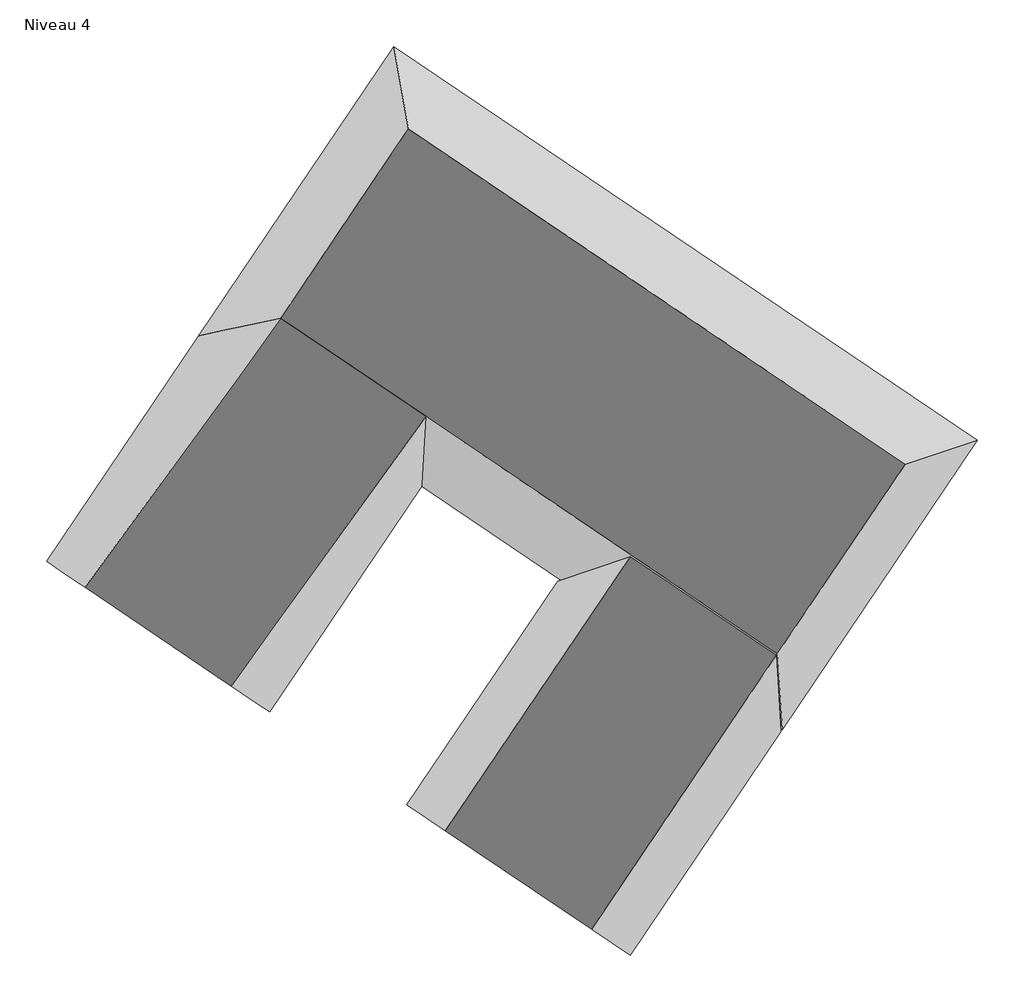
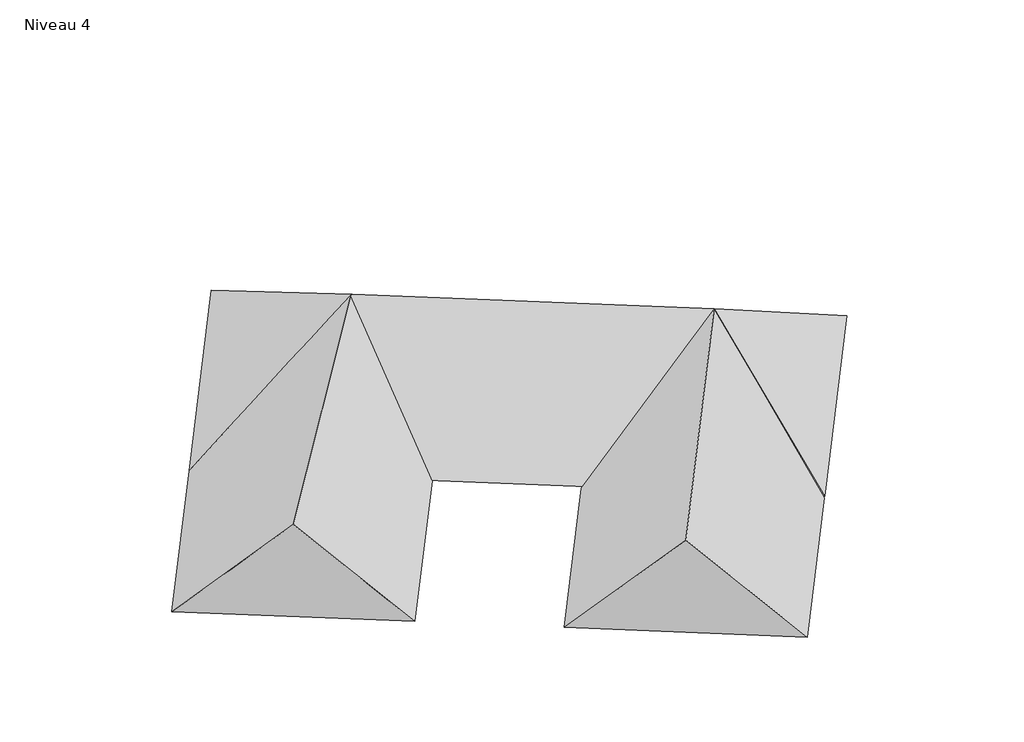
# One storey: 3 proxies.
"""IFC4 building model written with IfcOpenShell, lengths in millimetres."""

from ifc_helpers import new_model, si_unit, frame, origin, place, context, project, spatial, faceted_brep, element, save
from ifc_brep_helpers import plane_surface, spline_surface, advanced_brep

model = new_model("IFC4")

# Units and contexts
model_context = context("Model", 3, world=origin())
ifc_project = project(units=[si_unit("LENGTHUNIT", "METRE", prefix="MILLI")], contexts=[model_context])

# Site, building, storey
site = spatial("IfcSite", under=ifc_project)
building = spatial("IfcBuilding", under=site)
storey = spatial("IfcBuildingStorey", under=building, Name="Niveau 4", Elevation=10400.0)

# Proxies
placement = place(None, origin())
element("IfcBuildingElementProxy", 1, Name="Toiture : Toiture", ObjectType="Toiture : Toiture", at=placement, inside=storey, context=model_context, shape_type="AdvancedBrep", body=[
    advanced_brep(
    [(3595.3107216, -129935.5101585, 10565.0246334), (6289.6828324, -131752.8870948, 13565.0246334), (12963.9558064, -123246.5408698, 13543.7826538), (7270.1061431, -124487.4018993, 10565.0246334), (8984.0549432, -133570.2640311, 10565.0246334), (12658.8503647, -128122.1557718, 10565.0246334)],
    [
        (0, 1),
        (1, 2),
        (2, 3),
        (3, 0),
        (4, 0),
        (3, 5),
        (5, 4),
        (1, 4),
        (5, 2),
    ],
    [
        spline_surface(1, 1, [[(3595.3107216, -129935.5101585, 10565.0246334), (7270.1061431, -124487.4018993, 10565.0246334)], [(6289.6828324, -131752.8870948, 13565.0246334), (12963.9558064, -123246.5408698, 13543.7826538)]], [2, 2], [2, 2], [0.0, 1.0], [0.0, 1.0]),
        plane_surface(frame((6289.6828324, -131752.8870948, 10565.0246334), z_axis=(0.0, 0.0, -1.0000000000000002), x_axis=(-0.8290375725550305, 0.5591929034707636, 0.0))),
        spline_surface(1, 1, [[(6289.6828324, -131752.8870948, 13565.0246334), (12963.9558064, -123246.5408698, 13543.7826538)], [(8984.0549432, -133570.2640311, 10565.0246334), (12658.8503647, -128122.1557718, 10565.0246334)]], [2, 2], [2, 2], [0.0, 1.0], [0.0, 1.0]),
        plane_surface(frame((10964.3041047, -125285.3661803, 11557.9439735), z_axis=(0.32284604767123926, 0.4786389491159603, -0.8165017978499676), x_axis=(0.8699984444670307, 0.18959881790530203, 0.45514282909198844))),
        plane_surface(frame((6289.6828324, -131752.8870948, 11565.0246334), z_axis=(-0.5591929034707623, -0.8290375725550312, 0.0), x_axis=(-0.6091796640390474, 0.41089687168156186, -0.6782801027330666))),
    ],
    [
        (0, [[1, 2, 3, 4]]),
        (1, [[5, -4, 6, 7]]),
        (2, [[8, -7, 9, -2]]),
        (3, [[-3, -9, -6]]),
        (4, [[-1, -5, -8]]),
    ],
),
])
element("IfcBuildingElementProxy", 2, Name="Volume 2 : Volume 2", ObjectType="Volume 2 : Volume 2", at=placement, inside=storey, context=model_context, shape_type="Brep", body=[
    faceted_brep([(11983.2042736, -117499.9465702, 10565.0246334), (12997.4667001, -123267.3152946, 13565.0246334), (21025.921831, -128682.5766575, 13565.0246334), (26076.8430071, -127006.2259292, 10565.0246334), (7270.1061431, -124487.4018993, 10565.0246334), (21363.7448765, -133993.6812583, 10565.0246334)], [[[0, 1, 2, 3]], [[4, 0, 3, 5]], [[1, 4, 5, 2]], [[3, 2, 5]], [[1, 0, 4]]]),
])
element("IfcBuildingElementProxy", 3, Name="Volume 3 : Volume 3", ObjectType="Volume 3 : Volume 3", at=placement, inside=storey, context=model_context, shape_type="Brep", body=[
    faceted_brep([(12300.2052334, -135807.035645, 10565.0246334), (14994.5773442, -137624.4125812, 13565.0246334), (21025.921831, -128682.5766575, 13565.0246334), (15934.959106, -130418.2914233, 10565.0246334), (17688.949455, -139441.7895175, 10565.0246334), (21323.7033276, -134053.0452959, 10565.0246334)], [[[0, 1, 2, 3]], [[4, 0, 3, 5]], [[1, 4, 5, 2]], [[3, 2, 5]], [[1, 0, 4]]]),
])

save(model, "model.ifc")
